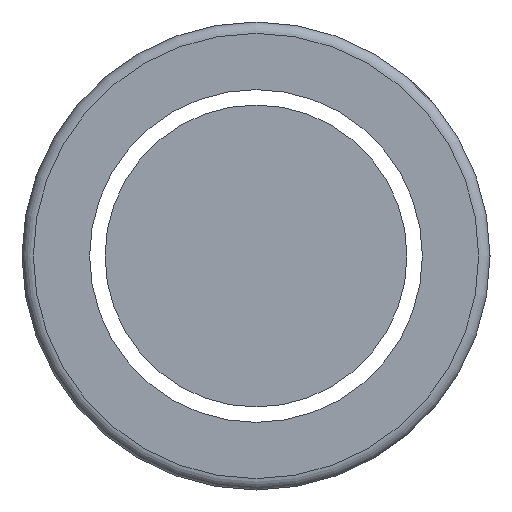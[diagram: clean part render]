
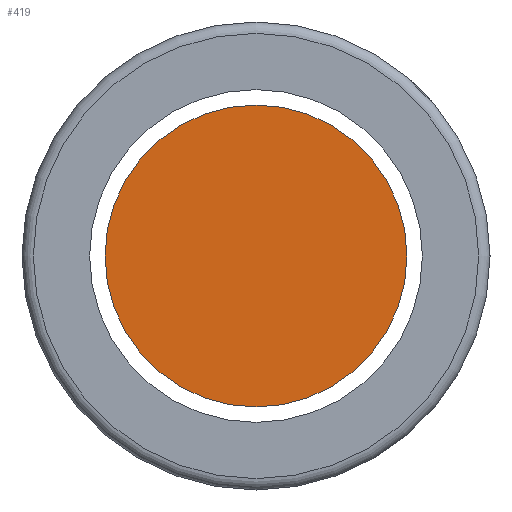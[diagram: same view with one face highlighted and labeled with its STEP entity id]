
A CAD part, left-side view. The second image highlights one B-rep face of the part: STEP entity #419.
In plain terms, the highlighted planar face has unit normal (-1, 0, 0).
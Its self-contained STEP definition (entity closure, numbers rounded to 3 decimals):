
#49 = CARTESIAN_POINT ( 'NONE',  ( -280., 0., -20. ) ) ;
#84 = DIRECTION ( 'NONE',  ( 0., 0., 1. ) ) ;
#123 = DIRECTION ( 'NONE',  ( -1., 0., 0. ) ) ;
#137 = PLANE ( 'NONE',  #444 ) ;
#207 = EDGE_LOOP ( 'NONE', ( #545 ) ) ;
#217 = DIRECTION ( 'NONE',  ( 1., 0., 0. ) ) ;
#278 = EDGE_CURVE ( 'NONE', #374, #374, #541, .T. ) ;
#334 = AXIS2_PLACEMENT_3D ( 'NONE', #409, #217, #411 ) ;
#374 = VERTEX_POINT ( 'NONE', #49 ) ;
#409 = CARTESIAN_POINT ( 'NONE',  ( -280., 0., 0. ) ) ;
#411 = DIRECTION ( 'NONE',  ( 0., 0., -1. ) ) ;
#416 = FACE_OUTER_BOUND ( 'NONE', #207, .T. ) ;
#419 = ADVANCED_FACE ( 'NONE', ( #416 ), #137, .T. ) ;
#444 = AXIS2_PLACEMENT_3D ( 'NONE', #576, #123, #84 ) ;
#541 = CIRCLE ( 'NONE', #334, 20. ) ;
#545 = ORIENTED_EDGE ( 'NONE', *, *, #278, .F. ) ;
#576 = CARTESIAN_POINT ( 'NONE',  ( -280., 0., 0. ) ) ;
